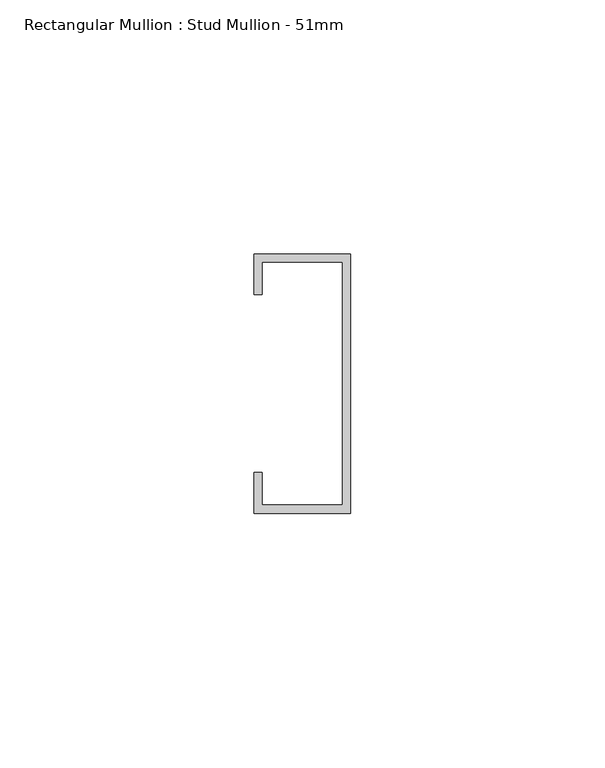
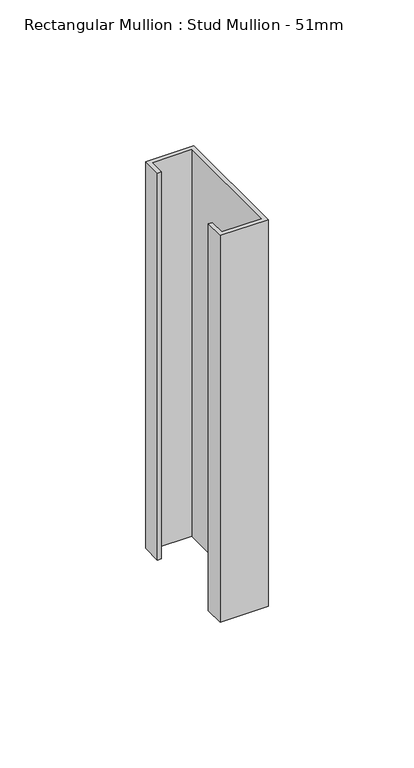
"""IFC4 building model written with IfcOpenShell, lengths in millimetres: member geometry, Rectangular Mullion : Stud Mullion - 51mm."""

from ifc_helpers import new_model, si_unit, frame, origin, place, context, project, spatial, polyline, outline, extrude, source, transform, mapped, element, save


def rectangular_mullion_stud_mullion_51mm_77066ee0(model_context):
    return source(origin(), model_context, "Body", "SweptSolid", [
        extrude(outline(polyline([(-19.0, 17.5), (-19.0, 25.5), (0.0, 25.5), (0.0, -25.5), (-19.0, -25.5), (-19.0, -17.5), (-17.4, -17.5), (-17.4, -23.9), (-1.6, -23.9), (-1.6, 23.9), (-17.4, 23.9), (-17.4, 17.5), (-19.0, 17.5)])), frame((0.0, 0.0, -161.9999997), z_axis=(0.0, 0.0, 1.0), x_axis=(1.0, 0.0, 0.0)), (0.0, 0.0, 1.0), 161.9999997),
    ])


if __name__ == "__main__":
    model = new_model("IFC4")
    model_context = context("Model", 3, world=origin())
    ifc_project = project(units=[si_unit("LENGTHUNIT", "METRE", prefix="MILLI")], contexts=[model_context])
    site = spatial("IfcSite", under=ifc_project)
    building = spatial("IfcBuilding", under=site)
    placement = place(None, origin())
    rectangular_mullion_stud_mullion_51mm_shape = rectangular_mullion_stud_mullion_51mm_77066ee0(model_context)
    element("IfcMember", 1, ObjectType="Rectangular Mullion : Stud Mullion - 51mm", at=placement, inside=building, context=model_context, shape_type="MappedRepresentation", body=[
        mapped(rectangular_mullion_stud_mullion_51mm_shape, transform((0.0, 0.0, 0.0), x_axis=(1.0, 0.0, 0.0), y_axis=(0.0, 1.0, 0.0), z_axis=(0.0, 0.0, 1.0))),
    ])
    save(model, "model.ifc")
